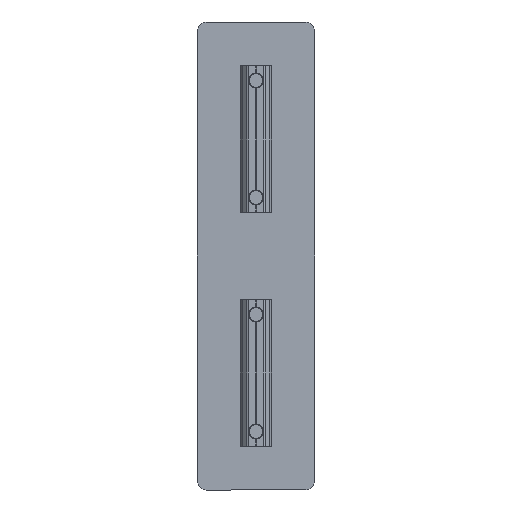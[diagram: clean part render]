
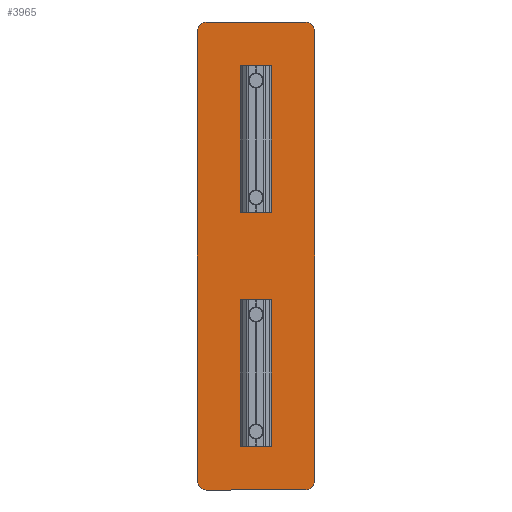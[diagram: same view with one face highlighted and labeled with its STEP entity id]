
A CAD part, front view. The second image highlights one B-rep face of the part: STEP entity #3965.
In plain terms, the highlighted planar face has unit normal (0, -1, 0).
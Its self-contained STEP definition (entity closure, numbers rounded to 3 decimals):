
#17 = CARTESIAN_POINT ( 'NONE',  ( -36.791, 16.94, -99.22 ) ) ;
#105 = CARTESIAN_POINT ( 'NONE',  ( -56.791, 16.94, 35.13 ) ) ;
#112 = CARTESIAN_POINT ( 'NONE',  ( -56.791, 16.94, -42.22 ) ) ;
#210 = ORIENTED_EDGE ( 'NONE', *, *, #6985, .T. ) ;
#223 = DIRECTION ( 'NONE',  ( 0., 0., 1. ) ) ;
#233 = DIRECTION ( 'NONE',  ( 0., -1., 0. ) ) ;
#337 = CARTESIAN_POINT ( 'NONE',  ( -56.791, 16.94, 0.43 ) ) ;
#371 = EDGE_CURVE ( 'NONE', #8634, #8380, #7246, .T. ) ;
#436 = EDGE_CURVE ( 'NONE', #8380, #6370, #6800, .T. ) ;
#665 = DIRECTION ( 'NONE',  ( 0., -1., 0. ) ) ;
#809 = DIRECTION ( 'NONE',  ( 0., 0., 1. ) ) ;
#873 = VECTOR ( 'NONE', #5106, 1000. ) ;
#892 = ORIENTED_EDGE ( 'NONE', *, *, #1391, .F. ) ;
#1113 = ORIENTED_EDGE ( 'NONE', *, *, #6045, .T. ) ;
#1186 = DIRECTION ( 'NONE',  ( -1., 0., 0. ) ) ;
#1323 = VERTEX_POINT ( 'NONE', #4959 ) ;
#1328 = FACE_OUTER_BOUND ( 'NONE', #1565, .T. ) ;
#1337 = VECTOR ( 'NONE', #223, 1000. ) ;
#1391 = EDGE_CURVE ( 'NONE', #5366, #4743, #8090, .T. ) ;
#1565 = EDGE_LOOP ( 'NONE', ( #6822, #8415, #1567, #6579, #1113, #1760, #7126, #210 ) ) ;
#1566 = CARTESIAN_POINT ( 'NONE',  ( -56.791, 16.94, -39.57 ) ) ;
#1567 = ORIENTED_EDGE ( 'NONE', *, *, #2814, .T. ) ;
#1687 = VERTEX_POINT ( 'NONE', #7610 ) ;
#1760 = ORIENTED_EDGE ( 'NONE', *, *, #3390, .T. ) ;
#1782 = DIRECTION ( 'NONE',  ( 0., -1., 0. ) ) ;
#1838 = LINE ( 'NONE', #2539, #5265 ) ;
#1877 = EDGE_LOOP ( 'NONE', ( #6013, #3179 ) ) ;
#2027 = CIRCLE ( 'NONE', #7803, 2.65 ) ;
#2076 = CIRCLE ( 'NONE', #8286, 3. ) ;
#2213 = CARTESIAN_POINT ( 'NONE',  ( -36.791, 16.94, -99.22 ) ) ;
#2217 = EDGE_CURVE ( 'NONE', #7744, #7361, #7855, .T. ) ;
#2251 = DIRECTION ( 'NONE',  ( 0., 0., -1. ) ) ;
#2272 = VERTEX_POINT ( 'NONE', #5803 ) ;
#2400 = EDGE_LOOP ( 'NONE', ( #3138, #6686 ) ) ;
#2458 = DIRECTION ( 'NONE',  ( 0., -1., 0. ) ) ;
#2539 = CARTESIAN_POINT ( 'NONE',  ( -39.791, 16.94, 57.78 ) ) ;
#2666 = CARTESIAN_POINT ( 'NONE',  ( -56.791, 16.94, -44.87 ) ) ;
#2712 = CARTESIAN_POINT ( 'NONE',  ( -73.791, 16.94, -102.22 ) ) ;
#2721 = CARTESIAN_POINT ( 'NONE',  ( -73.791, 16.94, -99.22 ) ) ;
#2814 = EDGE_CURVE ( 'NONE', #6370, #1687, #5580, .T. ) ;
#3004 = CARTESIAN_POINT ( 'NONE',  ( -39.791, 16.94, 54.78 ) ) ;
#3007 = CARTESIAN_POINT ( 'NONE',  ( -36.791, 16.94, 54.78 ) ) ;
#3086 = DIRECTION ( 'NONE',  ( 0., -1., 0. ) ) ;
#3092 = DIRECTION ( 'NONE',  ( 0., -1., 0. ) ) ;
#3098 = LINE ( 'NONE', #4402, #873 ) ;
#3135 = FACE_BOUND ( 'NONE', #2400, .T. ) ;
#3138 = ORIENTED_EDGE ( 'NONE', *, *, #4932, .F. ) ;
#3140 = CARTESIAN_POINT ( 'NONE',  ( -73.791, 16.94, 57.78 ) ) ;
#3179 = ORIENTED_EDGE ( 'NONE', *, *, #3583, .F. ) ;
#3386 = CARTESIAN_POINT ( 'NONE',  ( -56.791, 16.94, -2.22 ) ) ;
#3390 = EDGE_CURVE ( 'NONE', #4724, #7608, #7195, .T. ) ;
#3412 = DIRECTION ( 'NONE',  ( 0., 0., -1. ) ) ;
#3526 = AXIS2_PLACEMENT_3D ( 'NONE', #7215, #3086, #7905 ) ;
#3583 = EDGE_CURVE ( 'NONE', #3901, #4644, #5930, .T. ) ;
#3616 = EDGE_CURVE ( 'NONE', #7608, #4196, #2076, .T. ) ;
#3688 = DIRECTION ( 'NONE',  ( 0., -1., 0. ) ) ;
#3709 = DIRECTION ( 'NONE',  ( 0., 0., -1. ) ) ;
#3901 = VERTEX_POINT ( 'NONE', #337 ) ;
#3904 = CARTESIAN_POINT ( 'NONE',  ( -56.791, 16.94, -4.87 ) ) ;
#3936 = DIRECTION ( 'NONE',  ( 0., -1., 0. ) ) ;
#3965 = ADVANCED_FACE ( 'NONE', ( #3135, #7014, #6785, #4958, #1328 ), #6524, .T. ) ;
#4008 = VERTEX_POINT ( 'NONE', #3140 ) ;
#4078 = DIRECTION ( 'NONE',  ( 0., 0., 1. ) ) ;
#4154 = EDGE_CURVE ( 'NONE', #1323, #2272, #6670, .T. ) ;
#4196 = VERTEX_POINT ( 'NONE', #2712 ) ;
#4271 = CIRCLE ( 'NONE', #3526, 3. ) ;
#4318 = CARTESIAN_POINT ( 'NONE',  ( -56.791, 16.94, -2.22 ) ) ;
#4382 = ORIENTED_EDGE ( 'NONE', *, *, #2217, .F. ) ;
#4402 = CARTESIAN_POINT ( 'NONE',  ( -73.791, 16.94, -102.22 ) ) ;
#4549 = AXIS2_PLACEMENT_3D ( 'NONE', #4754, #665, #5446 ) ;
#4615 = AXIS2_PLACEMENT_3D ( 'NONE', #112, #4889, #809 ) ;
#4644 = VERTEX_POINT ( 'NONE', #3904 ) ;
#4724 = VERTEX_POINT ( 'NONE', #8795 ) ;
#4743 = VERTEX_POINT ( 'NONE', #2666 ) ;
#4754 = CARTESIAN_POINT ( 'NONE',  ( -56.791, 16.94, -82.22 ) ) ;
#4889 = DIRECTION ( 'NONE',  ( 0., -1., 0. ) ) ;
#4932 = EDGE_CURVE ( 'NONE', #2272, #1323, #6116, .T. ) ;
#4958 = FACE_BOUND ( 'NONE', #5711, .T. ) ;
#4959 = CARTESIAN_POINT ( 'NONE',  ( -56.791, 16.94, -79.57 ) ) ;
#5018 = DIRECTION ( 'NONE',  ( 0., 0., 1. ) ) ;
#5023 = ORIENTED_EDGE ( 'NONE', *, *, #5859, .F. ) ;
#5025 = EDGE_CURVE ( 'NONE', #1687, #4008, #1838, .T. ) ;
#5085 = AXIS2_PLACEMENT_3D ( 'NONE', #4318, #233, #5018 ) ;
#5106 = DIRECTION ( 'NONE',  ( 1., 0., 0. ) ) ;
#5183 = AXIS2_PLACEMENT_3D ( 'NONE', #5865, #1782, #6555 ) ;
#5265 = VECTOR ( 'NONE', #1186, 1000. ) ;
#5314 = AXIS2_PLACEMENT_3D ( 'NONE', #6558, #2458, #7277 ) ;
#5341 = AXIS2_PLACEMENT_3D ( 'NONE', #8043, #8103, #6678 ) ;
#5366 = VERTEX_POINT ( 'NONE', #1566 ) ;
#5401 = CARTESIAN_POINT ( 'NONE',  ( -76.791, 16.94, -99.22 ) ) ;
#5446 = DIRECTION ( 'NONE',  ( 0., 0., 1. ) ) ;
#5580 = CIRCLE ( 'NONE', #6494, 3. ) ;
#5711 = EDGE_LOOP ( 'NONE', ( #8830, #4382 ) ) ;
#5803 = CARTESIAN_POINT ( 'NONE',  ( -56.791, 16.94, -84.87 ) ) ;
#5859 = EDGE_CURVE ( 'NONE', #4743, #5366, #8789, .T. ) ;
#5865 = CARTESIAN_POINT ( 'NONE',  ( -39.791, 16.94, -99.22 ) ) ;
#5930 = CIRCLE ( 'NONE', #8750, 2.65 ) ;
#5972 = EDGE_CURVE ( 'NONE', #4644, #3901, #7728, .T. ) ;
#6013 = ORIENTED_EDGE ( 'NONE', *, *, #5972, .F. ) ;
#6023 = EDGE_LOOP ( 'NONE', ( #5023, #892 ) ) ;
#6045 = EDGE_CURVE ( 'NONE', #4008, #4724, #4271, .T. ) ;
#6116 = CIRCLE ( 'NONE', #5314, 2.65 ) ;
#6232 = CARTESIAN_POINT ( 'NONE',  ( -56.791, 16.94, 40.43 ) ) ;
#6370 = VERTEX_POINT ( 'NONE', #3007 ) ;
#6494 = AXIS2_PLACEMENT_3D ( 'NONE', #3004, #7820, #3709 ) ;
#6524 = PLANE ( 'NONE',  #5183 ) ;
#6553 = EDGE_CURVE ( 'NONE', #7361, #7744, #2027, .T. ) ;
#6555 = DIRECTION ( 'NONE',  ( 0., 0., -1. ) ) ;
#6558 = CARTESIAN_POINT ( 'NONE',  ( -56.791, 16.94, -82.22 ) ) ;
#6579 = ORIENTED_EDGE ( 'NONE', *, *, #5025, .T. ) ;
#6608 = CARTESIAN_POINT ( 'NONE',  ( -39.791, 16.94, -102.22 ) ) ;
#6670 = CIRCLE ( 'NONE', #4549, 2.65 ) ;
#6678 = DIRECTION ( 'NONE',  ( 0., 0., -1. ) ) ;
#6686 = ORIENTED_EDGE ( 'NONE', *, *, #4154, .F. ) ;
#6746 = VECTOR ( 'NONE', #2251, 1000. ) ;
#6785 = FACE_BOUND ( 'NONE', #1877, .T. ) ;
#6800 = LINE ( 'NONE', #17, #1337 ) ;
#6822 = ORIENTED_EDGE ( 'NONE', *, *, #371, .T. ) ;
#6985 = EDGE_CURVE ( 'NONE', #4196, #8634, #3098, .T. ) ;
#7014 = FACE_BOUND ( 'NONE', #6023, .T. ) ;
#7126 = ORIENTED_EDGE ( 'NONE', *, *, #3616, .T. ) ;
#7195 = LINE ( 'NONE', #7756, #6746 ) ;
#7215 = CARTESIAN_POINT ( 'NONE',  ( -73.791, 16.94, 54.78 ) ) ;
#7229 = CARTESIAN_POINT ( 'NONE',  ( -56.791, 16.94, -42.22 ) ) ;
#7246 = CIRCLE ( 'NONE', #5341, 3. ) ;
#7277 = DIRECTION ( 'NONE',  ( 0., 0., 1. ) ) ;
#7361 = VERTEX_POINT ( 'NONE', #105 ) ;
#7539 = DIRECTION ( 'NONE',  ( 0., -1., 0. ) ) ;
#7608 = VERTEX_POINT ( 'NONE', #5401 ) ;
#7610 = CARTESIAN_POINT ( 'NONE',  ( -39.791, 16.94, 57.78 ) ) ;
#7728 = CIRCLE ( 'NONE', #5085, 2.65 ) ;
#7744 = VERTEX_POINT ( 'NONE', #6232 ) ;
#7756 = CARTESIAN_POINT ( 'NONE',  ( -76.791, 16.94, 54.78 ) ) ;
#7803 = AXIS2_PLACEMENT_3D ( 'NONE', #8055, #3936, #8748 ) ;
#7806 = CARTESIAN_POINT ( 'NONE',  ( -56.791, 16.94, 37.78 ) ) ;
#7820 = DIRECTION ( 'NONE',  ( 0., -1., 0. ) ) ;
#7855 = CIRCLE ( 'NONE', #8267, 2.65 ) ;
#7905 = DIRECTION ( 'NONE',  ( 0., 0., -1. ) ) ;
#7915 = DIRECTION ( 'NONE',  ( 0., 0., 1. ) ) ;
#8043 = CARTESIAN_POINT ( 'NONE',  ( -39.791, 16.94, -99.22 ) ) ;
#8055 = CARTESIAN_POINT ( 'NONE',  ( -56.791, 16.94, 37.78 ) ) ;
#8090 = CIRCLE ( 'NONE', #8344, 2.65 ) ;
#8103 = DIRECTION ( 'NONE',  ( 0., -1., 0. ) ) ;
#8199 = DIRECTION ( 'NONE',  ( 0., -1., 0. ) ) ;
#8267 = AXIS2_PLACEMENT_3D ( 'NONE', #7806, #3688, #8482 ) ;
#8286 = AXIS2_PLACEMENT_3D ( 'NONE', #2721, #7539, #3412 ) ;
#8344 = AXIS2_PLACEMENT_3D ( 'NONE', #7229, #3092, #7915 ) ;
#8380 = VERTEX_POINT ( 'NONE', #2213 ) ;
#8415 = ORIENTED_EDGE ( 'NONE', *, *, #436, .T. ) ;
#8482 = DIRECTION ( 'NONE',  ( 0., 0., 1. ) ) ;
#8634 = VERTEX_POINT ( 'NONE', #6608 ) ;
#8748 = DIRECTION ( 'NONE',  ( 0., 0., 1. ) ) ;
#8750 = AXIS2_PLACEMENT_3D ( 'NONE', #3386, #8199, #4078 ) ;
#8789 = CIRCLE ( 'NONE', #4615, 2.65 ) ;
#8795 = CARTESIAN_POINT ( 'NONE',  ( -76.791, 16.94, 54.78 ) ) ;
#8830 = ORIENTED_EDGE ( 'NONE', *, *, #6553, .F. ) ;
